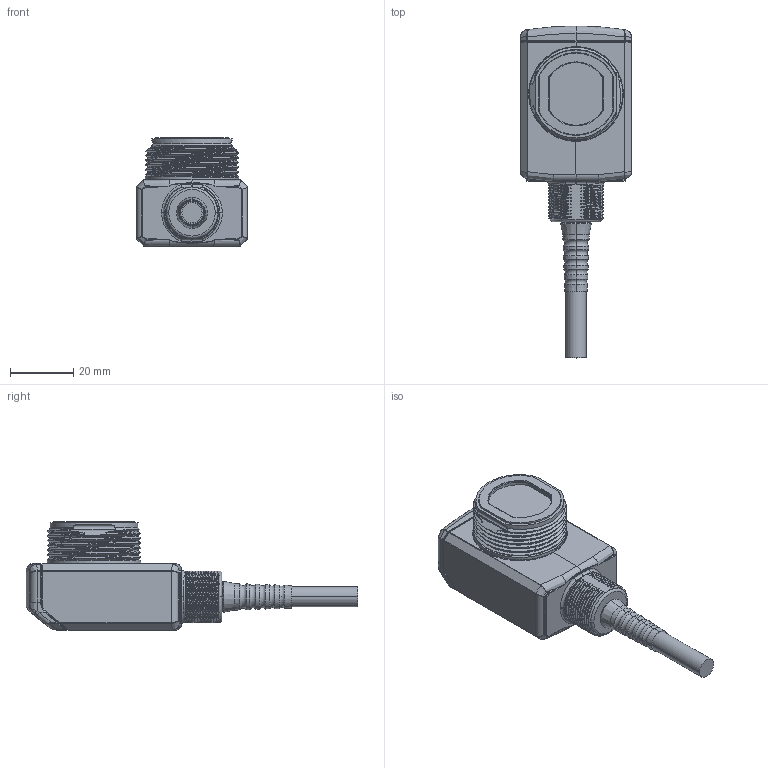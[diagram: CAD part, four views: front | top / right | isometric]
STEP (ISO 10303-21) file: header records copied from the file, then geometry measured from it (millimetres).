
FILE_DESCRIPTION((''),'2;1');
FILE_NAME('10002945573_ASM','2018-10-30T14:13:44',('SRao1'),('Rockwell Automation'),'CREO PARAMETRIC BY PTC INC, 2017380','CREO PARAMETRIC BY PTC INC, 2017380','');
FILE_SCHEMA(('CONFIG_CONTROL_DESIGN'));
Products named in the file (12): 10002429214; 10002389777; 10002488564; 10002945565_ASM; 10002429142; 75015-010; 10002945563; 10002945564_ASM; 10003602899; 10003623371; 10003758452_ASM; 10002945573_ASM
Assembly tree (12 placements, depth 3):
  10002945573_ASM
    10002429214
    10002945565_ASM
      10002389777
      10002488564  x2
    10002429142
    10002945564_ASM
      75015-010
      10002945563
    10003758452_ASM
      10003602899
      10003623371
Bounding box: 35.05 x 104.65 x 34.21 mm (x, y, z)
Volume: 21009.4 mm3; surface area: 22391.7 mm2
Topology: 9 solids, 9 shells, 1635 faces, 4364 edges, 2770 vertices
Faces by surface type: plane 826, cylinder 334, bspline 290, cone 90, torus 49, extrusion 26, sphere 12, revolution 8
Entity records: 110885 total; most frequent: CARTESIAN_POINT 73365, ORIENTED_EDGE 8632, DIRECTION 6401, EDGE_CURVE 4316, VERTEX_POINT 2746, VECTOR 2451, LINE 2425, AXIS2_PLACEMENT_3D 1971
